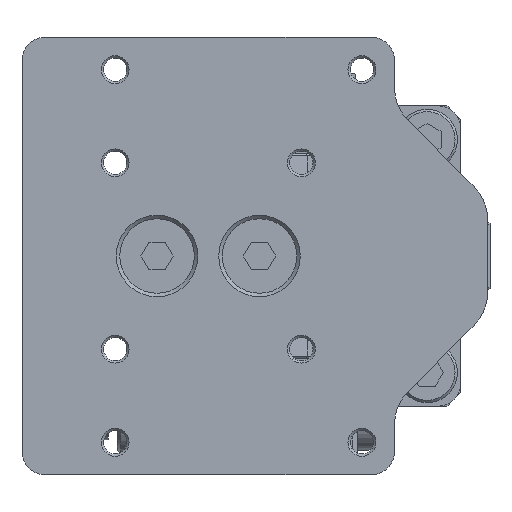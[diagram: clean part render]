
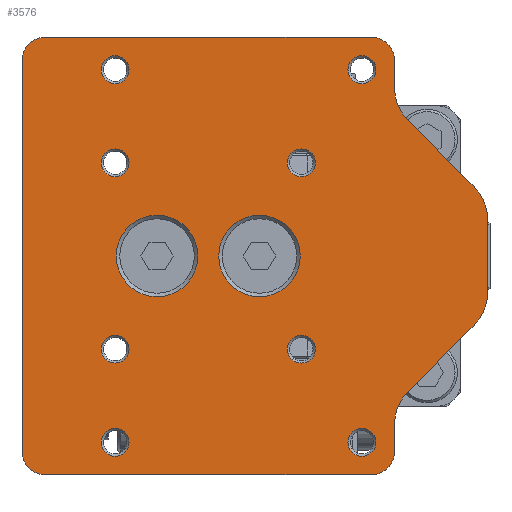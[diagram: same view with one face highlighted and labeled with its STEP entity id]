
A CAD part, front view. The second image highlights one B-rep face of the part: STEP entity #3576.
In plain terms, the highlighted planar face has unit normal (0, -1, 0).
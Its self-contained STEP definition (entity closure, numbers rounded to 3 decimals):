
#966=LINE('',#20260,#1726);
#967=LINE('',#20265,#1727);
#968=LINE('',#20269,#1728);
#969=LINE('',#20273,#1729);
#970=LINE('',#20277,#1730);
#971=LINE('',#20281,#1731);
#972=LINE('',#20285,#1732);
#973=LINE('',#20289,#1733);
#1726=VECTOR('',#15376,1.);
#1727=VECTOR('',#15379,1.);
#1728=VECTOR('',#15382,1.);
#1729=VECTOR('',#15385,1.);
#1730=VECTOR('',#15388,1.);
#1731=VECTOR('',#15391,1.);
#1732=VECTOR('',#15394,1.);
#1733=VECTOR('',#15397,1.);
#2821=FACE_BOUND('',#5476,.T.);
#2822=FACE_BOUND('',#5477,.T.);
#2823=FACE_BOUND('',#5478,.T.);
#2824=FACE_BOUND('',#5479,.T.);
#2825=FACE_BOUND('',#5480,.T.);
#2826=FACE_BOUND('',#5481,.T.);
#2827=FACE_BOUND('',#5482,.T.);
#2828=FACE_BOUND('',#5483,.T.);
#2829=FACE_BOUND('',#5484,.T.);
#2830=FACE_BOUND('',#5485,.T.);
#2831=FACE_BOUND('',#5486,.T.);
#3576=ADVANCED_FACE('',(#2821,#2822,#2823,#2824,#2825,#2826,#2827,#2828,
#2829,#2830,#2831),#4022,.T.);
#4022=PLANE('',#12424);
#5476=EDGE_LOOP('',(#8094,#8095,#8096,#8097,#8098,#8099,#8100,#8101,#8102,
#8103,#8104,#8105,#8106,#8107,#8108,#8109));
#5477=EDGE_LOOP('',(#8110));
#5478=EDGE_LOOP('',(#8111));
#5479=EDGE_LOOP('',(#8112));
#5480=EDGE_LOOP('',(#8113));
#5481=EDGE_LOOP('',(#8114));
#5482=EDGE_LOOP('',(#8115));
#5483=EDGE_LOOP('',(#8116));
#5484=EDGE_LOOP('',(#8117));
#5485=EDGE_LOOP('',(#8118));
#5486=EDGE_LOOP('',(#8119));
#8094=ORIENTED_EDGE('',*,*,#10699,.T.);
#8095=ORIENTED_EDGE('',*,*,#10700,.T.);
#8096=ORIENTED_EDGE('',*,*,#10701,.T.);
#8097=ORIENTED_EDGE('',*,*,#10702,.T.);
#8098=ORIENTED_EDGE('',*,*,#10703,.T.);
#8099=ORIENTED_EDGE('',*,*,#10704,.T.);
#8100=ORIENTED_EDGE('',*,*,#10705,.T.);
#8101=ORIENTED_EDGE('',*,*,#10706,.T.);
#8102=ORIENTED_EDGE('',*,*,#10707,.T.);
#8103=ORIENTED_EDGE('',*,*,#10708,.T.);
#8104=ORIENTED_EDGE('',*,*,#10709,.T.);
#8105=ORIENTED_EDGE('',*,*,#10710,.T.);
#8106=ORIENTED_EDGE('',*,*,#10711,.T.);
#8107=ORIENTED_EDGE('',*,*,#10712,.T.);
#8108=ORIENTED_EDGE('',*,*,#10713,.T.);
#8109=ORIENTED_EDGE('',*,*,#10714,.T.);
#8110=ORIENTED_EDGE('',*,*,#10715,.T.);
#8111=ORIENTED_EDGE('',*,*,#10716,.T.);
#8112=ORIENTED_EDGE('',*,*,#10717,.T.);
#8113=ORIENTED_EDGE('',*,*,#10718,.T.);
#8114=ORIENTED_EDGE('',*,*,#10719,.T.);
#8115=ORIENTED_EDGE('',*,*,#10720,.T.);
#8116=ORIENTED_EDGE('',*,*,#10721,.T.);
#8117=ORIENTED_EDGE('',*,*,#10722,.T.);
#8118=ORIENTED_EDGE('',*,*,#10723,.T.);
#8119=ORIENTED_EDGE('',*,*,#10724,.T.);
#9337=VERTEX_POINT('',#20261);
#9338=VERTEX_POINT('',#20262);
#9339=VERTEX_POINT('',#20264);
#9340=VERTEX_POINT('',#20266);
#9341=VERTEX_POINT('',#20268);
#9342=VERTEX_POINT('',#20270);
#9343=VERTEX_POINT('',#20272);
#9344=VERTEX_POINT('',#20274);
#9345=VERTEX_POINT('',#20276);
#9346=VERTEX_POINT('',#20278);
#9347=VERTEX_POINT('',#20280);
#9348=VERTEX_POINT('',#20282);
#9349=VERTEX_POINT('',#20284);
#9350=VERTEX_POINT('',#20286);
#9351=VERTEX_POINT('',#20288);
#9352=VERTEX_POINT('',#20290);
#9353=VERTEX_POINT('',#20293);
#9354=VERTEX_POINT('',#20295);
#9355=VERTEX_POINT('',#20297);
#9356=VERTEX_POINT('',#20299);
#9357=VERTEX_POINT('',#20301);
#9358=VERTEX_POINT('',#20303);
#9359=VERTEX_POINT('',#20305);
#9360=VERTEX_POINT('',#20307);
#9361=VERTEX_POINT('',#20309);
#9362=VERTEX_POINT('',#20311);
#10699=EDGE_CURVE('',#9337,#9338,#966,.T.);
#10700=EDGE_CURVE('',#9338,#9339,#11272,.T.);
#10701=EDGE_CURVE('',#9339,#9340,#967,.T.);
#10702=EDGE_CURVE('',#9340,#9341,#11273,.T.);
#10703=EDGE_CURVE('',#9341,#9342,#968,.T.);
#10704=EDGE_CURVE('',#9342,#9343,#11274,.T.);
#10705=EDGE_CURVE('',#9343,#9344,#969,.T.);
#10706=EDGE_CURVE('',#9344,#9345,#11275,.T.);
#10707=EDGE_CURVE('',#9345,#9346,#970,.T.);
#10708=EDGE_CURVE('',#9346,#9347,#11276,.T.);
#10709=EDGE_CURVE('',#9347,#9348,#971,.T.);
#10710=EDGE_CURVE('',#9348,#9349,#11277,.T.);
#10711=EDGE_CURVE('',#9349,#9350,#972,.T.);
#10712=EDGE_CURVE('',#9350,#9351,#11278,.T.);
#10713=EDGE_CURVE('',#9351,#9352,#973,.T.);
#10714=EDGE_CURVE('',#9352,#9337,#11279,.T.);
#10715=EDGE_CURVE('',#9353,#9353,#11280,.T.);
#10716=EDGE_CURVE('',#9354,#9354,#11281,.T.);
#10717=EDGE_CURVE('',#9355,#9355,#11282,.T.);
#10718=EDGE_CURVE('',#9356,#9356,#11283,.T.);
#10719=EDGE_CURVE('',#9357,#9357,#11284,.T.);
#10720=EDGE_CURVE('',#9358,#9358,#11285,.T.);
#10721=EDGE_CURVE('',#9359,#9359,#11286,.T.);
#10722=EDGE_CURVE('',#9360,#9360,#11287,.T.);
#10723=EDGE_CURVE('',#9361,#9361,#11288,.T.);
#10724=EDGE_CURVE('',#9362,#9362,#11289,.T.);
#11272=CIRCLE('',#12406,10.);
#11273=CIRCLE('',#12407,5.);
#11274=CIRCLE('',#12408,5.);
#11275=CIRCLE('',#12409,5.);
#11276=CIRCLE('',#12410,5.);
#11277=CIRCLE('',#12411,10.);
#11278=CIRCLE('',#12412,10.);
#11279=CIRCLE('',#12413,10.);
#11280=CIRCLE('',#12414,8.75);
#11281=CIRCLE('',#12415,3.);
#11282=CIRCLE('',#12416,3.);
#11283=CIRCLE('',#12417,3.);
#11284=CIRCLE('',#12418,3.);
#11285=CIRCLE('',#12419,3.);
#11286=CIRCLE('',#12420,3.);
#11287=CIRCLE('',#12421,3.);
#11288=CIRCLE('',#12422,3.);
#11289=CIRCLE('',#12423,8.75);
#12406=AXIS2_PLACEMENT_3D('',#20263,#15377,#15378);
#12407=AXIS2_PLACEMENT_3D('',#20267,#15380,#15381);
#12408=AXIS2_PLACEMENT_3D('',#20271,#15383,#15384);
#12409=AXIS2_PLACEMENT_3D('',#20275,#15386,#15387);
#12410=AXIS2_PLACEMENT_3D('',#20279,#15389,#15390);
#12411=AXIS2_PLACEMENT_3D('',#20283,#15392,#15393);
#12412=AXIS2_PLACEMENT_3D('',#20287,#15395,#15396);
#12413=AXIS2_PLACEMENT_3D('',#20291,#15398,#15399);
#12414=AXIS2_PLACEMENT_3D('',#20292,#15400,#15401);
#12415=AXIS2_PLACEMENT_3D('',#20294,#15402,#15403);
#12416=AXIS2_PLACEMENT_3D('',#20296,#15404,#15405);
#12417=AXIS2_PLACEMENT_3D('',#20298,#15406,#15407);
#12418=AXIS2_PLACEMENT_3D('',#20300,#15408,#15409);
#12419=AXIS2_PLACEMENT_3D('',#20302,#15410,#15411);
#12420=AXIS2_PLACEMENT_3D('',#20304,#15412,#15413);
#12421=AXIS2_PLACEMENT_3D('',#20306,#15414,#15415);
#12422=AXIS2_PLACEMENT_3D('',#20308,#15416,#15417);
#12423=AXIS2_PLACEMENT_3D('',#20310,#15418,#15419);
#12424=AXIS2_PLACEMENT_3D('',#20312,#15420,#15421);
#15376=DIRECTION('',(-0.707,0.,0.707));
#15377=DIRECTION('',(0.,1.,0.));
#15378=DIRECTION('',(-0.707,0.,-0.707));
#15379=DIRECTION('',(0.,0.,1.));
#15380=DIRECTION('',(0.,-1.,0.));
#15381=DIRECTION('',(1.,0.,0.));
#15382=DIRECTION('',(-1.,0.,0.));
#15383=DIRECTION('',(0.,-1.,0.));
#15384=DIRECTION('',(0.,0.,1.));
#15385=DIRECTION('',(0.,0.,-1.));
#15386=DIRECTION('',(0.,-1.,0.));
#15387=DIRECTION('',(-1.,0.,0.));
#15388=DIRECTION('',(1.,0.,0.));
#15389=DIRECTION('',(0.,-1.,0.));
#15390=DIRECTION('',(0.,0.,-1.));
#15391=DIRECTION('',(0.,0.,1.));
#15392=DIRECTION('',(0.,1.,0.));
#15393=DIRECTION('',(-1.,0.,0.));
#15394=DIRECTION('',(0.707,0.,0.707));
#15395=DIRECTION('',(0.,-1.,0.));
#15396=DIRECTION('',(0.707,0.,-0.707));
#15397=DIRECTION('',(0.,0.,1.));
#15398=DIRECTION('',(0.,-1.,0.));
#15399=DIRECTION('',(1.,0.,0.));
#15400=DIRECTION('',(0.,1.,0.));
#15401=DIRECTION('',(1.,0.,0.));
#15402=DIRECTION('',(0.,1.,0.));
#15403=DIRECTION('',(1.,0.,0.));
#15404=DIRECTION('',(0.,1.,0.));
#15405=DIRECTION('',(-1.,0.,0.));
#15406=DIRECTION('',(0.,1.,0.));
#15407=DIRECTION('',(-1.,0.,0.));
#15408=DIRECTION('',(0.,1.,0.));
#15409=DIRECTION('',(1.,0.,0.));
#15410=DIRECTION('',(0.,1.,0.));
#15411=DIRECTION('',(-1.,0.,0.));
#15412=DIRECTION('',(0.,1.,0.));
#15413=DIRECTION('',(1.,0.,0.));
#15414=DIRECTION('',(0.,1.,0.));
#15415=DIRECTION('',(1.,0.,0.));
#15416=DIRECTION('',(0.,1.,0.));
#15417=DIRECTION('',(1.,0.,0.));
#15418=DIRECTION('',(0.,1.,0.));
#15419=DIRECTION('',(1.,0.,0.));
#15420=DIRECTION('',(0.,-1.,0.));
#15421=DIRECTION('',(1.,0.,0.));
#20260=CARTESIAN_POINT('',(67.321,-92.,-24.321));
#20261=CARTESIAN_POINT('',(67.321,-92.,-24.321));
#20262=CARTESIAN_POINT('',(53.179,-92.,-10.179));
#20263=CARTESIAN_POINT('',(60.25,-92.,-3.108));
#20264=CARTESIAN_POINT('',(50.25,-92.,-3.108));
#20265=CARTESIAN_POINT('',(50.25,-92.,-3.108));
#20266=CARTESIAN_POINT('',(50.25,-92.,2.75));
#20267=CARTESIAN_POINT('',(45.25,-92.,2.75));
#20268=CARTESIAN_POINT('',(45.25,-92.,7.75));
#20269=CARTESIAN_POINT('',(45.25,-92.,7.75));
#20270=CARTESIAN_POINT('',(-24.75,-92.,7.75));
#20271=CARTESIAN_POINT('',(-24.75,-92.,2.75));
#20272=CARTESIAN_POINT('',(-29.75,-92.,2.75));
#20273=CARTESIAN_POINT('',(-29.75,-92.,2.75));
#20274=CARTESIAN_POINT('',(-29.75,-92.,-81.25));
#20275=CARTESIAN_POINT('',(-24.75,-92.,-81.25));
#20276=CARTESIAN_POINT('',(-24.75,-92.,-86.25));
#20277=CARTESIAN_POINT('',(-24.75,-92.,-86.25));
#20278=CARTESIAN_POINT('',(45.25,-92.,-86.25));
#20279=CARTESIAN_POINT('',(45.25,-92.,-81.25));
#20280=CARTESIAN_POINT('',(50.25,-92.,-81.25));
#20281=CARTESIAN_POINT('',(50.25,-92.,-81.25));
#20282=CARTESIAN_POINT('',(50.25,-92.,-75.392));
#20283=CARTESIAN_POINT('',(60.25,-92.,-75.392));
#20284=CARTESIAN_POINT('',(53.179,-92.,-68.321));
#20285=CARTESIAN_POINT('',(53.179,-92.,-68.321));
#20286=CARTESIAN_POINT('',(67.321,-92.,-54.179));
#20287=CARTESIAN_POINT('',(60.25,-92.,-47.108));
#20288=CARTESIAN_POINT('',(70.25,-92.,-47.108));
#20289=CARTESIAN_POINT('',(70.25,-92.,-47.108));
#20290=CARTESIAN_POINT('',(70.25,-92.,-31.392));
#20291=CARTESIAN_POINT('',(60.25,-92.,-31.392));
#20292=CARTESIAN_POINT('',(-0.75,-92.,-39.25));
#20293=CARTESIAN_POINT('',(8.,-92.,-39.25));
#20294=CARTESIAN_POINT('',(30.25,-92.,-19.25));
#20295=CARTESIAN_POINT('',(33.25,-92.,-19.25));
#20296=CARTESIAN_POINT('',(43.25,-92.,0.75));
#20297=CARTESIAN_POINT('',(40.25,-92.,0.75));
#20298=CARTESIAN_POINT('',(-9.75,-92.,0.75));
#20299=CARTESIAN_POINT('',(-12.75,-92.,0.75));
#20300=CARTESIAN_POINT('',(-9.75,-92.,-19.25));
#20301=CARTESIAN_POINT('',(-6.75,-92.,-19.25));
#20302=CARTESIAN_POINT('',(-9.75,-92.,-59.25));
#20303=CARTESIAN_POINT('',(-12.75,-92.,-59.25));
#20304=CARTESIAN_POINT('',(30.25,-92.,-59.25));
#20305=CARTESIAN_POINT('',(33.25,-92.,-59.25));
#20306=CARTESIAN_POINT('',(43.25,-92.,-79.25));
#20307=CARTESIAN_POINT('',(46.25,-92.,-79.25));
#20308=CARTESIAN_POINT('',(-9.75,-92.,-79.25));
#20309=CARTESIAN_POINT('',(-6.75,-92.,-79.25));
#20310=CARTESIAN_POINT('',(21.25,-92.,-39.25));
#20311=CARTESIAN_POINT('',(30.,-92.,-39.25));
#20312=CARTESIAN_POINT('',(-29.75,-92.,-39.25));
